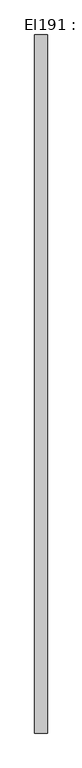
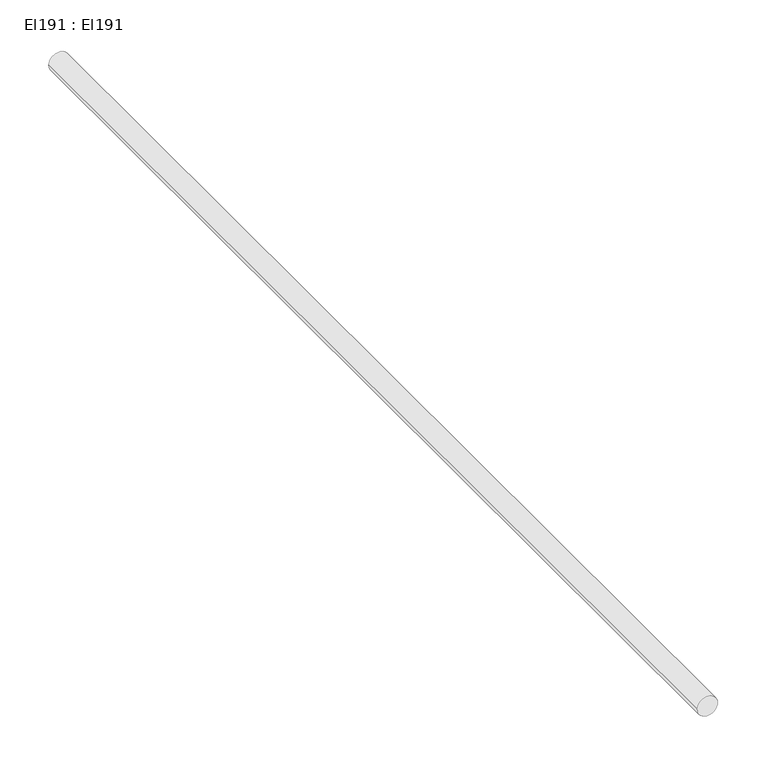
"""IFC4 building model written with IfcOpenShell, lengths in millimetres: cable carrier segment geometry, El191 : El191."""

from ifc_helpers import new_model, si_unit, point, frame, frame_2d, origin, place, context, project, spatial, circle_curve, trimmed, segment, composite_curve, outline, extrude, source, transform, mapped, element, save


def el191_el191_42bb591c(model_context):
    return source(origin(), model_context, "Body", "SweptSolid", [
        extrude(outline(composite_curve([segment(trimmed(circle_curve(frame_2d((2950.0, 9575.0)), 12.0), [point((2950.0, 9563.0))], [point((2950.0, 9587.0))], False, "CARTESIAN"), True, "CONTINUOUS"), segment(trimmed(circle_curve(frame_2d((2950.0, 9575.0)), 12.0), [point((2950.0, 9587.0))], [point((2950.0, 9563.0))], False, "CARTESIAN"), True, "CONTINUOUS")], self_intersect=False)), frame((0.0, 32183.876, 0.0), z_axis=(0.0, 1.0, 0.0), x_axis=(0.0, 0.0, 1.0)), (0.0, 0.0, 1.0), 1325.05),
    ])


if __name__ == "__main__":
    model = new_model("IFC4")
    model_context = context("Model", 3, world=origin())
    ifc_project = project(units=[si_unit("LENGTHUNIT", "METRE", prefix="MILLI")], contexts=[model_context])
    site = spatial("IfcSite", under=ifc_project)
    building = spatial("IfcBuilding", under=site)
    placement = place(None, origin())
    el191_el191_shape = el191_el191_42bb591c(model_context)
    element("IfcCableCarrierSegment", 1, ObjectType="El191 : El191", at=placement, inside=building, context=model_context, shape_type="MappedRepresentation", body=[
        mapped(el191_el191_shape, transform((0.0, 0.0, 0.0), x_axis=(1.0, 0.0, 0.0), y_axis=(0.0, 1.0, 0.0), z_axis=(0.0, 0.0, 1.0))),
    ])
    save(model, "model.ifc")
